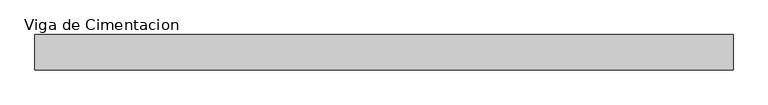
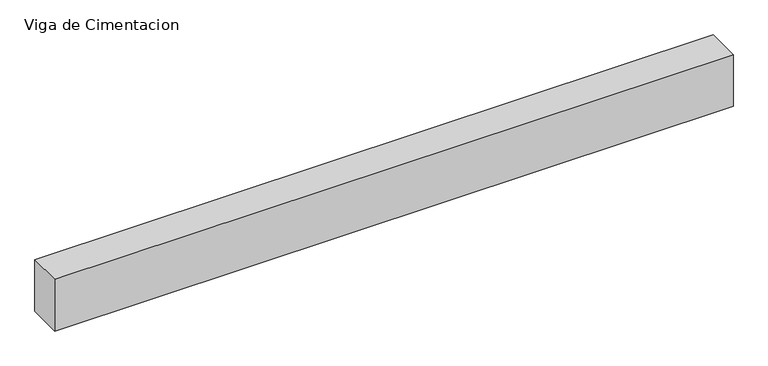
"""IFC4 building model written with IfcOpenShell, lengths in millimetres: beam geometry, Viga de Cimentacion : EVC_Viga de Cimentacion 25x50 cm."""

from ifc_helpers import new_model, si_unit, frame, origin, place, context, project, spatial, polyline, outline, extrude, source, transform, mapped, element, save


def viga_de_cimentacion_4fc30262(model_context):
    return source(origin(), model_context, "Body", "SweptSolid", [
        extrude(outline(polyline([(2437.5, 125.0), (2437.5, -125.0), (-2512.5, -125.0), (-2512.5, 125.0), (2437.5, 125.0)])), frame((0.0, 0.0, -400.0), z_axis=(0.0, 0.0, 1.0), x_axis=(1.0, 0.0, 0.0)), (0.0, 0.0, 1.0), 400.0),
    ])


if __name__ == "__main__":
    model = new_model("IFC4")
    model_context = context("Model", 3, world=origin())
    ifc_project = project(units=[si_unit("LENGTHUNIT", "METRE", prefix="MILLI")], contexts=[model_context])
    site = spatial("IfcSite", under=ifc_project)
    building = spatial("IfcBuilding", under=site)
    placement = place(None, origin())
    viga_de_cimentacion_shape = viga_de_cimentacion_4fc30262(model_context)
    element("IfcBeam", 1, ObjectType="Viga de Cimentacion : EVC_Viga de Cimentacion 25x50 cm", at=placement, inside=building, context=model_context, shape_type="MappedRepresentation", body=[
        mapped(viga_de_cimentacion_shape, transform((0.0, 0.0, 0.0), x_axis=(1.0, 0.0, 0.0), y_axis=(0.0, 1.0, 0.0), z_axis=(0.0, 0.0, 1.0))),
    ])
    save(model, "model.ifc")
